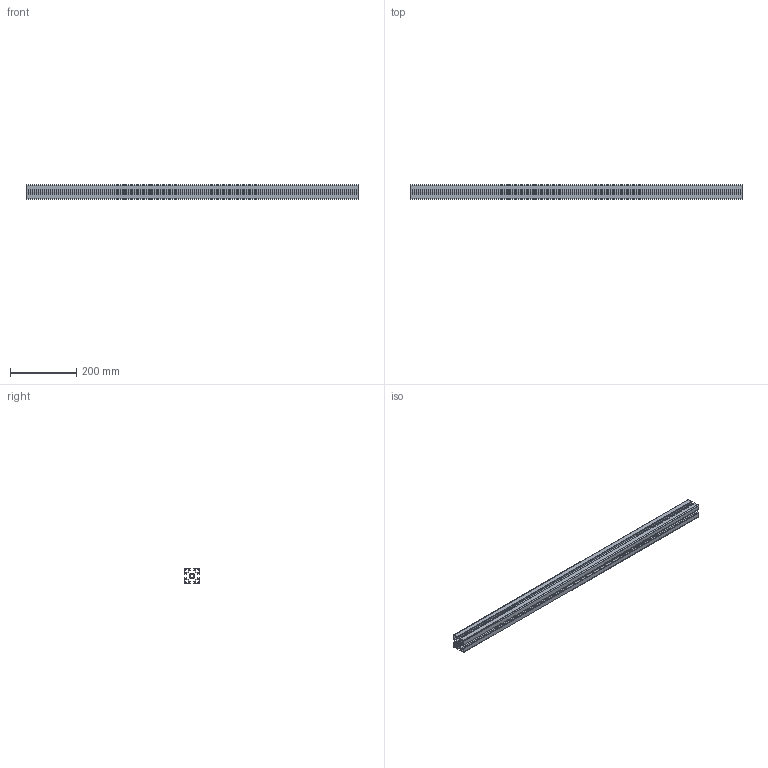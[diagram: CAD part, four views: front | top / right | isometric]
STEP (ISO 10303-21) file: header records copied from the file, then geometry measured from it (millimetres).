
FILE_DESCRIPTION (( 'STEP AP214' ), '1' );
FILE_NAME ('45X45L.STEP', '2019-07-04T07:30:38', ( '' ), ( '' ), 'SwSTEP 2.0', 'SolidWorks 2014', '' );
FILE_SCHEMA (( 'AUTOMOTIVE_DESIGN' ));
Length unit declared in the file: millimetre
Products named in the file (2): 45X45L
Bounding box: 1000 x 45 x 45 mm (x, y, z)
Volume: 551426.8 mm3; surface area: 621898.8 mm2
Topology: 1 solids, 1 shells, 173 faces, 513 edges, 342 vertices
Faces by surface type: plane 114, cylinder 59
Entity records: 5854 total; most frequent: CARTESIAN_POINT 1030, ORIENTED_EDGE 1026, DIRECTION 981, EDGE_CURVE 513, VECTOR 395, LINE 395, VERTEX_POINT 342, AXIS2_PLACEMENT_3D 293
